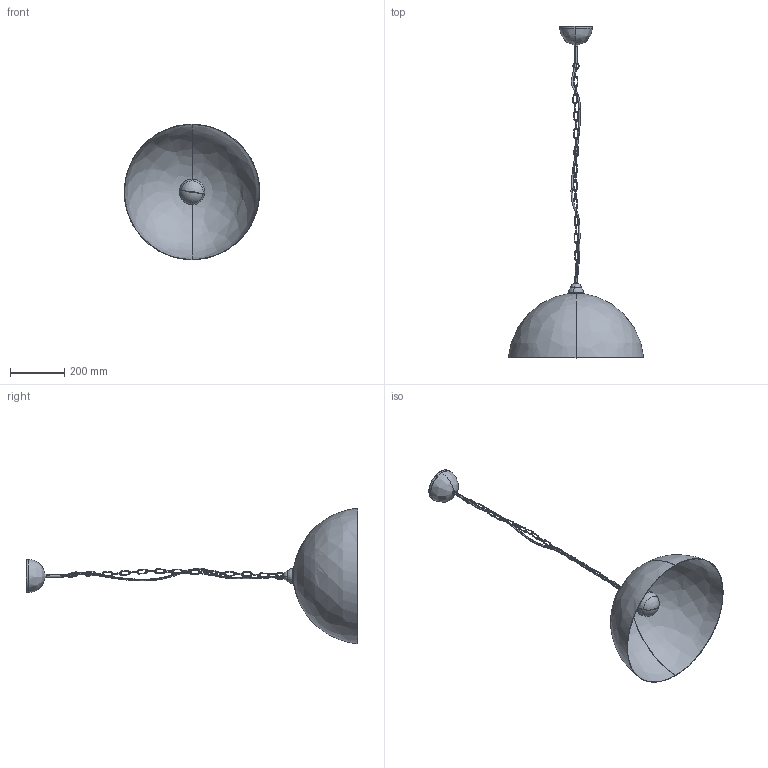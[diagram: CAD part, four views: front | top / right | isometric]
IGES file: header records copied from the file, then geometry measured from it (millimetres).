
Start section: SolidWorks IGES file using analytic representation for surfaces
Global section: file name: E:\3D lampy\Hemisphere\Hemisphere zwis 50 part.IGS; native system: SolidWorks 2016; preprocessor: SolidWorks 2016; author: Asia; date: 160928.153746; units: millimetre
Bounding box: 500 x 1225.04 x 500 mm (x, y, z)
Surface area: 915143 mm2 (no closed solid volume)
Topology: 0 solids, 0 shells, 432 faces, 4996 edges, 4987 vertices
Faces by surface type: bspline 226, revolution 206
